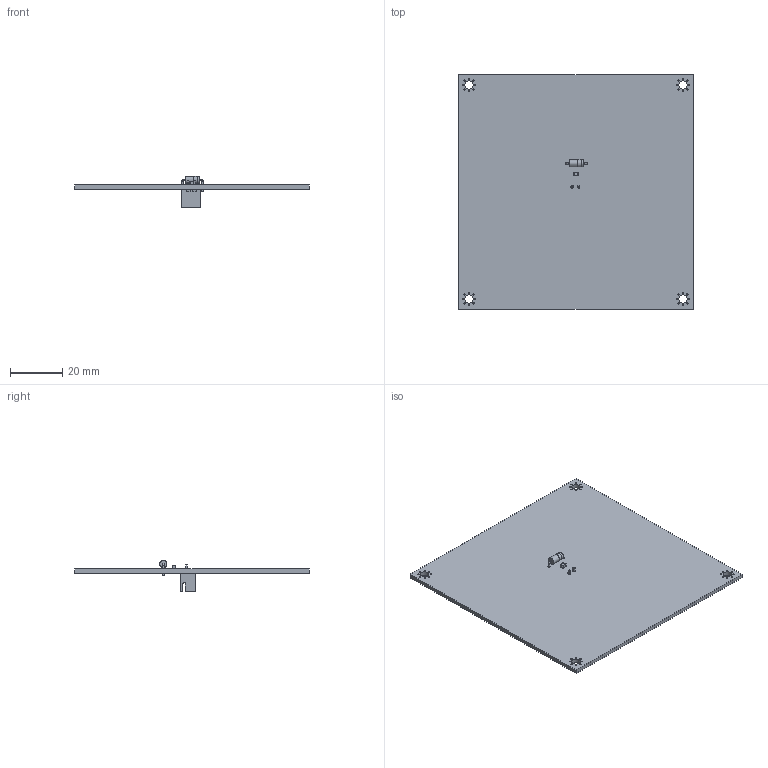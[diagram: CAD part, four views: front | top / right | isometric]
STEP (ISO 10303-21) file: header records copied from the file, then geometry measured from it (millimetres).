
FILE_DESCRIPTION(('KiCad electronic assembly'),'2;1');
FILE_NAME('AddOnTemplate.step','2019-05-14T15:02:26',('An Author'),( 'A Company'),'Open CASCADE STEP processor 6.9', 'KiCad to STEP converter','Unknown');
FILE_SCHEMA(('AUTOMOTIVE_DESIGN { 1 0 10303 214 1 1 1 1 }'));
Length unit declared in the file: millimetre
Products named in the file (8): Open CASCADE STEP translator 6.9 1; JST_XH_B02B-XH-A_1x02_P2.50mm_Vertical; SOLID; C_0805_2012Metric; D_A-405_P7.62mm_Horizontal; COMPOUND
Assembly tree (7 placements, depth 3):
  Open CASCADE STEP translator 6.9 1
    JST_XH_B02B-XH-A_1x02_P2.50mm_Vertical
      SOLID
    C_0805_2012Metric
      SOLID
    D_A-405_P7.62mm_Horizontal
      SOLID
    COMPOUND
Bounding box: 90 x 90 x 11.91 mm (x, y, z)
Volume: 13085.1 mm3; surface area: 17342.7 mm2
Topology: 4 solids, 4 shells, 178 faces, 466 edges, 306 vertices
Faces by surface type: plane 113, cylinder 63, torus 2
Full cylindrical faces by diameter (mm): 0.5 x32, 0.6 x4, 0.9 x2, 1 x2, 2.7 x2, 2.72 x1, 3.2 x4
Entity records: 12902 total; most frequent: CARTESIAN_POINT 2082, DIRECTION 1878, LINE 1144, VECTOR 1144, ORIENTED_EDGE 932, PCURVE 932, DEFINITIONAL_REPRESENTATION 932, EDGE_CURVE 466
